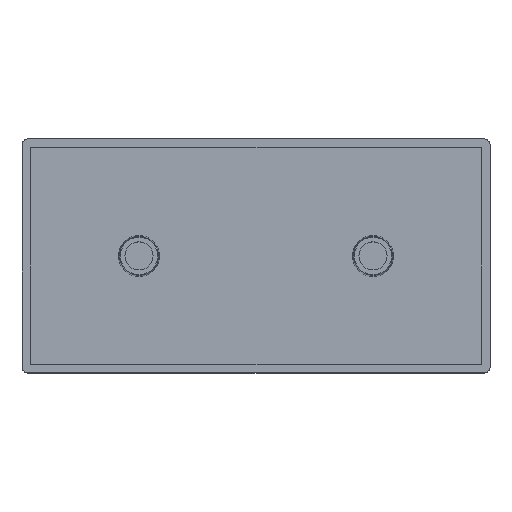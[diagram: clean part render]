
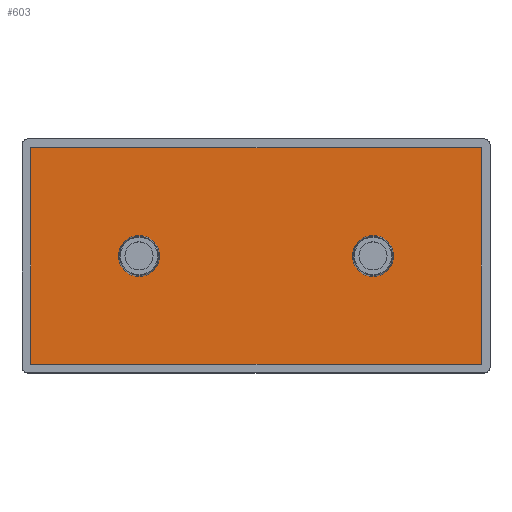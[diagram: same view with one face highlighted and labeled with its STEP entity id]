
A CAD part, top view. The second image highlights one B-rep face of the part: STEP entity #603.
In plain terms, the highlighted planar face has unit normal (0, 0, 1).
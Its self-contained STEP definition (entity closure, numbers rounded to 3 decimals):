
#3 = DIRECTION ( 'NONE',  ( -1., 0., 0. ) ) ;
#7 = CARTESIAN_POINT ( 'NONE',  ( -38.5, -18.5, 1.5 ) ) ;
#16 = CARTESIAN_POINT ( 'NONE',  ( 20., 0., 1.5 ) ) ;
#35 = AXIS2_PLACEMENT_3D ( 'NONE', #1121, #176, #993 ) ;
#56 = AXIS2_PLACEMENT_3D ( 'NONE', #275, #341, #180 ) ;
#77 = VERTEX_POINT ( 'NONE', #573 ) ;
#81 = EDGE_CURVE ( 'NONE', #1068, #653, #1160, .T. ) ;
#83 = VERTEX_POINT ( 'NONE', #584 ) ;
#85 = DIRECTION ( 'NONE',  ( -1., 0., 0. ) ) ;
#97 = DIRECTION ( 'NONE',  ( 0., 0., 1. ) ) ;
#98 = ORIENTED_EDGE ( 'NONE', *, *, #861, .T. ) ;
#120 = VECTOR ( 'NONE', #85, 1000. ) ;
#123 = CARTESIAN_POINT ( 'NONE',  ( 16.5, 0., 1.5 ) ) ;
#132 = CARTESIAN_POINT ( 'NONE',  ( -20., 0., 1.5 ) ) ;
#149 = EDGE_CURVE ( 'NONE', #744, #941, #1118, .T. ) ;
#152 = LINE ( 'NONE', #556, #379 ) ;
#176 = DIRECTION ( 'NONE',  ( 0., 0., 1. ) ) ;
#177 = AXIS2_PLACEMENT_3D ( 'NONE', #16, #178, #3 ) ;
#178 = DIRECTION ( 'NONE',  ( 0., 0., 1. ) ) ;
#180 = DIRECTION ( 'NONE',  ( -1., 0., 0. ) ) ;
#227 = DIRECTION ( 'NONE',  ( 1., 0., 0. ) ) ;
#270 = VERTEX_POINT ( 'NONE', #370 ) ;
#275 = CARTESIAN_POINT ( 'NONE',  ( 20., 0., 1.5 ) ) ;
#281 = CARTESIAN_POINT ( 'NONE',  ( -16.5, 0., 1.5 ) ) ;
#286 = CIRCLE ( 'NONE', #177, 3.5 ) ;
#308 = DIRECTION ( 'NONE',  ( -1., 0., 0. ) ) ;
#341 = DIRECTION ( 'NONE',  ( 0., 0., 1. ) ) ;
#365 = LINE ( 'NONE', #1019, #120 ) ;
#370 = CARTESIAN_POINT ( 'NONE',  ( 23.5, 0., 1.5 ) ) ;
#373 = AXIS2_PLACEMENT_3D ( 'NONE', #614, #1105, #1032 ) ;
#377 = EDGE_LOOP ( 'NONE', ( #922, #98, #595, #839 ) ) ;
#379 = VECTOR ( 'NONE', #845, 1000. ) ;
#416 = VERTEX_POINT ( 'NONE', #123 ) ;
#453 = CARTESIAN_POINT ( 'NONE',  ( -38.5, -18.5, 1.5 ) ) ;
#486 = ORIENTED_EDGE ( 'NONE', *, *, #81, .F. ) ;
#517 = VECTOR ( 'NONE', #762, 1000. ) ;
#556 = CARTESIAN_POINT ( 'NONE',  ( 38.5, -18.5, 1.5 ) ) ;
#573 = CARTESIAN_POINT ( 'NONE',  ( 38.5, 18.5, 1.5 ) ) ;
#584 = CARTESIAN_POINT ( 'NONE',  ( -38.5, 18.5, 1.5 ) ) ;
#595 = ORIENTED_EDGE ( 'NONE', *, *, #1104, .T. ) ;
#603 = ADVANCED_FACE ( 'NONE', ( #933, #958, #1120 ), #756, .F. ) ;
#614 = CARTESIAN_POINT ( 'NONE',  ( 0., 0., 1.5 ) ) ;
#619 = ORIENTED_EDGE ( 'NONE', *, *, #854, .F. ) ;
#653 = VERTEX_POINT ( 'NONE', #281 ) ;
#716 = AXIS2_PLACEMENT_3D ( 'NONE', #132, #97, #308 ) ;
#744 = VERTEX_POINT ( 'NONE', #7 ) ;
#750 = CARTESIAN_POINT ( 'NONE',  ( 38.5, -18.5, 1.5 ) ) ;
#756 = PLANE ( 'NONE',  #373 ) ;
#762 = DIRECTION ( 'NONE',  ( 0., -1., 0. ) ) ;
#768 = CARTESIAN_POINT ( 'NONE',  ( -38.5, -18.5, 1.5 ) ) ;
#791 = CIRCLE ( 'NONE', #35, 3.5 ) ;
#815 = LINE ( 'NONE', #768, #517 ) ;
#827 = ORIENTED_EDGE ( 'NONE', *, *, #1173, .F. ) ;
#839 = ORIENTED_EDGE ( 'NONE', *, *, #149, .T. ) ;
#845 = DIRECTION ( 'NONE',  ( 0., 1., 0. ) ) ;
#854 = EDGE_CURVE ( 'NONE', #270, #416, #286, .T. ) ;
#861 = EDGE_CURVE ( 'NONE', #77, #83, #365, .T. ) ;
#874 = EDGE_CURVE ( 'NONE', #941, #77, #152, .T. ) ;
#922 = ORIENTED_EDGE ( 'NONE', *, *, #874, .T. ) ;
#933 = FACE_BOUND ( 'NONE', #1196, .T. ) ;
#941 = VERTEX_POINT ( 'NONE', #750 ) ;
#958 = FACE_BOUND ( 'NONE', #965, .T. ) ;
#965 = EDGE_LOOP ( 'NONE', ( #486, #827 ) ) ;
#972 = EDGE_CURVE ( 'NONE', #416, #270, #1159, .T. ) ;
#993 = DIRECTION ( 'NONE',  ( -1., 0., 0. ) ) ;
#1019 = CARTESIAN_POINT ( 'NONE',  ( -38.5, 18.5, 1.5 ) ) ;
#1032 = DIRECTION ( 'NONE',  ( -1., 0., 0. ) ) ;
#1066 = CARTESIAN_POINT ( 'NONE',  ( -23.5, 0., 1.5 ) ) ;
#1068 = VERTEX_POINT ( 'NONE', #1066 ) ;
#1102 = VECTOR ( 'NONE', #227, 1000. ) ;
#1104 = EDGE_CURVE ( 'NONE', #83, #744, #815, .T. ) ;
#1105 = DIRECTION ( 'NONE',  ( 0., 0., -1. ) ) ;
#1118 = LINE ( 'NONE', #453, #1102 ) ;
#1120 = FACE_OUTER_BOUND ( 'NONE', #377, .T. ) ;
#1121 = CARTESIAN_POINT ( 'NONE',  ( -20., 0., 1.5 ) ) ;
#1159 = CIRCLE ( 'NONE', #56, 3.5 ) ;
#1160 = CIRCLE ( 'NONE', #716, 3.5 ) ;
#1173 = EDGE_CURVE ( 'NONE', #653, #1068, #791, .T. ) ;
#1196 = EDGE_LOOP ( 'NONE', ( #1197, #619 ) ) ;
#1197 = ORIENTED_EDGE ( 'NONE', *, *, #972, .F. ) ;
